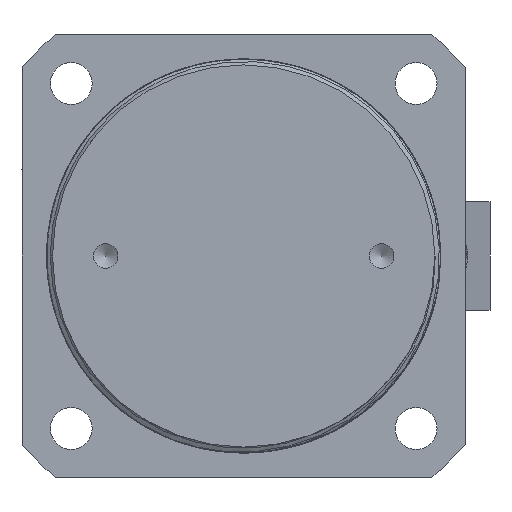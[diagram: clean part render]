
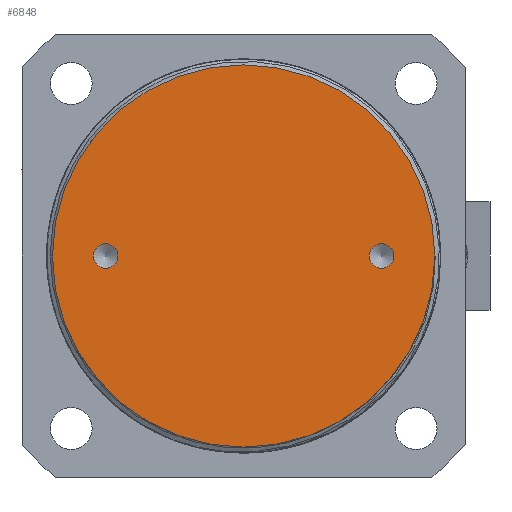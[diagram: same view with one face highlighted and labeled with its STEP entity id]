
A CAD part, front view. The second image highlights one B-rep face of the part: STEP entity #6848.
In plain terms, the highlighted planar face has unit normal (0, -1, 0).
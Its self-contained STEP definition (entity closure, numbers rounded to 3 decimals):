
#245=FACE_BOUND('',#1090,.T.);
#246=FACE_BOUND('',#1091,.T.);
#306=PLANE('',#7439);
#687=FACE_OUTER_BOUND('',#1089,.T.);
#1089=EDGE_LOOP('',(#5306));
#1090=EDGE_LOOP('',(#5307));
#1091=EDGE_LOOP('',(#5308,#5309));
#1422=CIRCLE('',#7437,38.8);
#1423=CIRCLE('',#7440,2.5);
#1424=CIRCLE('',#7441,2.5);
#1425=CIRCLE('',#7442,2.5);
#3081=VERTEX_POINT('',#30527);
#3082=VERTEX_POINT('',#30533);
#3083=VERTEX_POINT('',#30535);
#3084=VERTEX_POINT('',#30536);
#3930=EDGE_CURVE('',#3081,#3081,#1422,.T.);
#3933=EDGE_CURVE('',#3082,#3082,#1423,.T.);
#3934=EDGE_CURVE('',#3083,#3084,#1424,.T.);
#3935=EDGE_CURVE('',#3084,#3083,#1425,.T.);
#5306=ORIENTED_EDGE('',*,*,#3930,.T.);
#5307=ORIENTED_EDGE('',*,*,#3933,.T.);
#5308=ORIENTED_EDGE('',*,*,#3934,.F.);
#5309=ORIENTED_EDGE('',*,*,#3935,.F.);
#6848=ADVANCED_FACE('',(#687,#245,#246),#306,.T.);
#7437=AXIS2_PLACEMENT_3D('',#30528,#8380,#8381);
#7439=AXIS2_PLACEMENT_3D('',#30532,#8386,#8387);
#7440=AXIS2_PLACEMENT_3D('',#30534,#8388,#8389);
#7441=AXIS2_PLACEMENT_3D('',#30537,#8390,#8391);
#7442=AXIS2_PLACEMENT_3D('',#30538,#8392,#8393);
#8380=DIRECTION('center_axis',(0.,-1.,0.));
#8381=DIRECTION('ref_axis',(1.,0.,0.));
#8386=DIRECTION('center_axis',(0.,-1.,0.));
#8387=DIRECTION('ref_axis',(-1.,0.,0.));
#8388=DIRECTION('center_axis',(0.,1.,0.));
#8389=DIRECTION('ref_axis',(1.,0.,0.));
#8390=DIRECTION('center_axis',(0.,-1.,0.));
#8391=DIRECTION('ref_axis',(-1.,0.,0.));
#8392=DIRECTION('center_axis',(0.,-1.,0.));
#8393=DIRECTION('ref_axis',(-1.,0.,0.));
#30527=CARTESIAN_POINT('',(38.8,-80.,0.));
#30528=CARTESIAN_POINT('Origin',(0.,-80.,0.));
#30532=CARTESIAN_POINT('Origin',(0.,-80.,0.));
#30533=CARTESIAN_POINT('',(25.5,-80.,0.));
#30534=CARTESIAN_POINT('Origin',(28.,-80.,0.));
#30535=CARTESIAN_POINT('',(-30.5,-80.,0.));
#30536=CARTESIAN_POINT('',(-25.5,-80.,0.));
#30537=CARTESIAN_POINT('Origin',(-28.,-80.,0.));
#30538=CARTESIAN_POINT('Origin',(-28.,-80.,0.));
